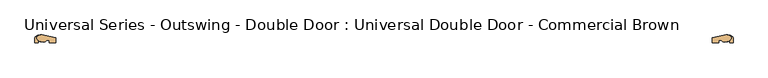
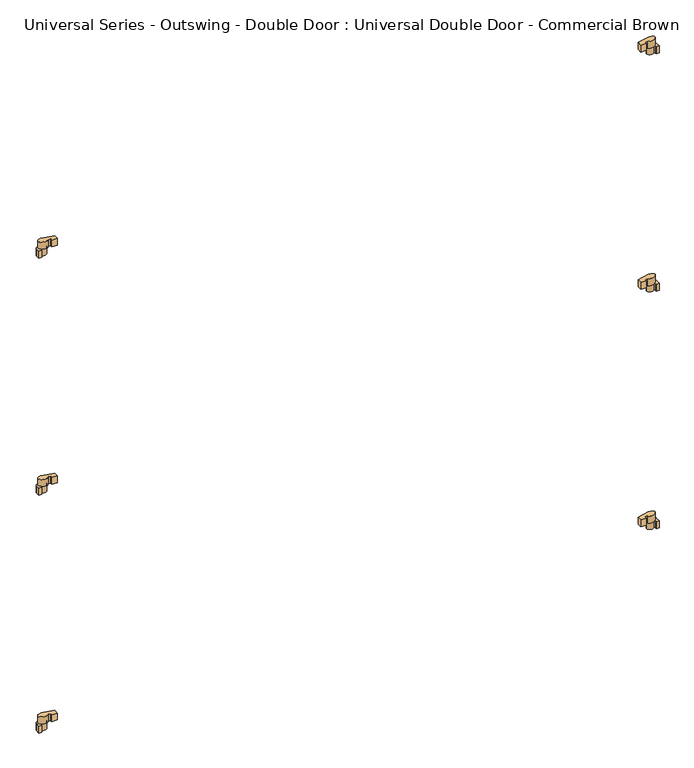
"""IFC4 building model written with IfcOpenShell, lengths in millimetres: door geometry, Universal Series - Outswing - Double Door : Universal Double Door - Commercial Brown."""

from ifc_helpers import new_model, si_unit, point, frame, origin, place, context, project, spatial, ellipse_curve, trimmed, source, transform, mapped, element, save
from ifc_brep_helpers import plane_surface, extruded_surface, advanced_brep


def universal_series_outswing_double_door_universal_double_door_7408c8ae(model_context):
    return source(origin(), model_context, "Body", "AdvancedBrep", [
        advanced_brep(
        [(1066.8, 73.81875, 1854.2), (1066.8, 57.94375, 1854.2), (1056.6410269, 57.94375, 1854.2), (1056.6410269, 62.5751014, 1854.2), (1054.3021491, 66.7596681, 1854.2), (1031.7277787, 73.81875, 1854.2), (1066.8, 73.81875, 1879.6), (1031.7277787, 73.81875, 1879.6), (1054.3021491, 66.7596681, 1879.6), (1056.6410269, 62.5751014, 1879.6), (1056.6410269, 57.94375, 1879.6), (1066.8, 57.94375, 1879.6)],
        [
            (0, 1),
            (1, 2),
            (2, 3),
            (3, 4),
            (4, 5, ellipse_curve(frame((1044.4277787, 73.81875, 1854.2), z_axis=(0.0, 0.0, -1.0), x_axis=(-1.0, 0.0, 0.0)), 12.7, 11.2250039)),
            (5, 0, ellipse_curve(frame((1049.2638894, 73.81875, 1854.2), z_axis=(0.0, 0.0, -1.0), x_axis=(1.0, 0.0, 0.0)), 17.5361106, 8.0833806)),
            (6, 7, ellipse_curve(frame((1049.2638894, 73.81875, 1879.6), z_axis=(0.0, 0.0, 1.0), x_axis=(1.0, 0.0, 0.0)), 17.5361106, 8.0833806)),
            (7, 8, ellipse_curve(frame((1044.4277787, 73.81875, 1879.6), z_axis=(0.0, 0.0, 1.0), x_axis=(-1.0, 0.0, 0.0)), 12.7, 11.2250039)),
            (8, 9),
            (9, 10),
            (10, 11),
            (11, 6),
            (6, 0),
            (5, 7),
            (4, 8),
            (3, 9),
            (2, 10),
            (1, 11),
        ],
        [
            plane_surface(frame((1066.8, 73.81875, 1854.2), z_axis=(0.0, 0.0, -1.0), x_axis=(0.0, -1.0, 0.0))),
            plane_surface(frame((1066.8, 73.81875, 1879.6), z_axis=(0.0, 0.0, 1.0), x_axis=(0.0, 1.0, 0.0))),
            extruded_surface(trimmed(ellipse_curve(frame((1049.2638894, 73.81875, 1828.8), z_axis=(0.0, 0.0, 1.0), x_axis=(1.0, 0.0, 0.0)), 17.5361106, 8.0833806), [point((1066.8, 73.81875, 1828.8))], [point((1031.7277787, 73.81875, 1828.8))], True, "CARTESIAN"), (0.0, 0.0, 25.40000000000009), 25.40000000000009),
            extruded_surface(trimmed(ellipse_curve(frame((1044.4277787, 73.81875, 1828.8), z_axis=(0.0, 0.0, 1.0), x_axis=(-1.0, 0.0, 0.0)), 12.7, 11.2250039), [point((1031.7277787, 73.81875, 1828.8))], [point((1054.3021491, 66.7596681, 1828.8))], True, "CARTESIAN"), (0.0, 0.0, 25.40000000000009), 25.40000000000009),
            plane_surface(frame((1054.3021491, 66.7596681, 1879.6), z_axis=(-0.8729040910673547, -0.4878918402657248, 0.0), x_axis=(0.0, 0.0, -1.0))),
            plane_surface(frame((1056.6410269, 62.5751014, 1879.6), z_axis=(-1.0, 0.0, 0.0), x_axis=(0.0, 0.0, -1.0))),
            plane_surface(frame((1056.6410269, 57.94375, 1879.6), z_axis=(0.0, -1.0, 0.0), x_axis=(0.0, 0.0, -1.0))),
            plane_surface(frame((1066.8, 57.94375, 1879.6), z_axis=(1.0, 0.0, 0.0), x_axis=(0.0, 0.0, -1.0))),
        ],
        [
            (0, [[1, 2, 3, 4, 5, 6]]),
            (1, [[7, 8, 9, 10, 11, 12]]),
            (2, [[-7, 13, -6, 14]]),
            (3, [[-8, -14, -5, 15]]),
            (4, [[-9, -15, -4, 16]]),
            (5, [[-10, -16, -3, 17]]),
            (6, [[-11, -17, -2, 18]]),
            (7, [[-12, -18, -1, -13]]),
        ],
    ),
        advanced_brep(
        [(1066.8, 73.81875, 991.39375), (1066.8, 57.94375, 991.39375), (1056.6410269, 57.94375, 991.39375), (1056.6410269, 62.5751014, 991.39375), (1054.3021491, 66.7596681, 991.39375), (1031.7277787, 73.81875, 991.39375), (1066.8, 73.81875, 1016.79375), (1031.7277787, 73.81875, 1016.79375), (1054.3021491, 66.7596681, 1016.79375), (1056.6410269, 62.5751014, 1016.79375), (1056.6410269, 57.94375, 1016.79375), (1066.8, 57.94375, 1016.79375)],
        [
            (0, 1),
            (1, 2),
            (2, 3),
            (3, 4),
            (4, 5, ellipse_curve(frame((1044.4277787, 73.81875, 991.39375), z_axis=(0.0, 0.0, -1.0), x_axis=(-1.0, 0.0, 0.0)), 12.7, 11.2250039)),
            (5, 0, ellipse_curve(frame((1049.2638894, 73.81875, 991.39375), z_axis=(0.0, 0.0, -1.0), x_axis=(1.0, 0.0, 0.0)), 17.5361106, 8.0833806)),
            (6, 7, ellipse_curve(frame((1049.2638894, 73.81875, 1016.79375), z_axis=(0.0, 0.0, 1.0), x_axis=(1.0, 0.0, 0.0)), 17.5361106, 8.0833806)),
            (7, 8, ellipse_curve(frame((1044.4277787, 73.81875, 1016.79375), z_axis=(0.0, 0.0, 1.0), x_axis=(-1.0, 0.0, 0.0)), 12.7, 11.2250039)),
            (8, 9),
            (9, 10),
            (10, 11),
            (11, 6),
            (6, 0),
            (5, 7),
            (4, 8),
            (3, 9),
            (2, 10),
            (1, 11),
        ],
        [
            plane_surface(frame((1066.8, 73.81875, 991.39375), z_axis=(0.0, 0.0, -1.0), x_axis=(0.0, -1.0, 0.0))),
            plane_surface(frame((1066.8, 73.81875, 1016.79375), z_axis=(0.0, 0.0, 1.0), x_axis=(0.0, 1.0, 0.0))),
            extruded_surface(trimmed(ellipse_curve(frame((1049.2638894, 73.81875, 965.99375), z_axis=(0.0, 0.0, 1.0), x_axis=(1.0, 0.0, 0.0)), 17.5361106, 8.0833806), [point((1066.8, 73.81875, 965.99375))], [point((1031.7277787, 73.81875, 965.99375))], True, "CARTESIAN"), (0.0, 0.0, 25.399999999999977), 25.399999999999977),
            extruded_surface(trimmed(ellipse_curve(frame((1044.4277787, 73.81875, 965.99375), z_axis=(0.0, 0.0, 1.0), x_axis=(-1.0, 0.0, 0.0)), 12.7, 11.2250039), [point((1031.7277787, 73.81875, 965.99375))], [point((1054.3021491, 66.7596681, 965.99375))], True, "CARTESIAN"), (0.0, 0.0, 25.399999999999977), 25.399999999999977),
            plane_surface(frame((1054.3021491, 66.7596681, 1016.79375), z_axis=(-0.8729040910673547, -0.4878918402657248, 0.0), x_axis=(0.0, 0.0, -1.0))),
            plane_surface(frame((1056.6410269, 62.5751014, 1016.79375), z_axis=(-1.0, 0.0, 0.0), x_axis=(0.0, 0.0, -1.0))),
            plane_surface(frame((1056.6410269, 57.94375, 1016.79375), z_axis=(0.0, -1.0, 0.0), x_axis=(0.0, 0.0, -1.0))),
            plane_surface(frame((1066.8, 57.94375, 1016.79375), z_axis=(1.0, 0.0, 0.0), x_axis=(0.0, 0.0, -1.0))),
        ],
        [
            (0, [[1, 2, 3, 4, 5, 6]]),
            (1, [[7, 8, 9, 10, 11, 12]]),
            (2, [[-7, 13, -6, 14]]),
            (3, [[-8, -14, -5, 15]]),
            (4, [[-9, -15, -4, 16]]),
            (5, [[-10, -16, -3, 17]]),
            (6, [[-11, -17, -2, 18]]),
            (7, [[-12, -18, -1, -13]]),
        ],
    ),
        advanced_brep(
        [(1066.8, 73.81875, 127.0), (1066.8, 57.94375, 127.0), (1056.6410269, 57.94375, 127.0), (1056.6410269, 62.5751014, 127.0), (1054.3021491, 66.7596681, 127.0), (1031.7277787, 73.81875, 127.0), (1066.8, 73.81875, 152.4), (1031.7277787, 73.81875, 152.4), (1054.3021491, 66.7596681, 152.4), (1056.6410269, 62.5751014, 152.4), (1056.6410269, 57.94375, 152.4), (1066.8, 57.94375, 152.4)],
        [
            (0, 1),
            (1, 2),
            (2, 3),
            (3, 4),
            (4, 5, ellipse_curve(frame((1044.4277787, 73.81875, 127.0), z_axis=(0.0, 0.0, -1.0), x_axis=(-1.0, 0.0, 0.0)), 12.7, 11.2250039)),
            (5, 0, ellipse_curve(frame((1049.2638894, 73.81875, 127.0), z_axis=(0.0, 0.0, -1.0), x_axis=(1.0, 0.0, 0.0)), 17.5361106, 8.0833806)),
            (6, 7, ellipse_curve(frame((1049.2638894, 73.81875, 152.4), z_axis=(0.0, 0.0, 1.0), x_axis=(1.0, 0.0, 0.0)), 17.5361106, 8.0833806)),
            (7, 8, ellipse_curve(frame((1044.4277787, 73.81875, 152.4), z_axis=(0.0, 0.0, 1.0), x_axis=(-1.0, 0.0, 0.0)), 12.7, 11.2250039)),
            (8, 9),
            (9, 10),
            (10, 11),
            (11, 6),
            (6, 0),
            (5, 7),
            (4, 8),
            (3, 9),
            (2, 10),
            (1, 11),
        ],
        [
            plane_surface(frame((1066.8, 73.81875, 127.0), z_axis=(0.0, 0.0, -1.0), x_axis=(0.0, -1.0, 0.0))),
            plane_surface(frame((1066.8, 73.81875, 152.4), z_axis=(0.0, 0.0, 1.0), x_axis=(0.0, 1.0, 0.0))),
            extruded_surface(trimmed(ellipse_curve(frame((1049.2638894, 73.81875, 101.6), z_axis=(0.0, 0.0, 1.0), x_axis=(1.0, 0.0, 0.0)), 17.5361106, 8.0833806), [point((1066.8, 73.81875, 101.6))], [point((1031.7277787, 73.81875, 101.6))], True, "CARTESIAN"), (0.0, 0.0, 25.400000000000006), 25.400000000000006),
            extruded_surface(trimmed(ellipse_curve(frame((1044.4277787, 73.81875, 101.6), z_axis=(0.0, 0.0, 1.0), x_axis=(-1.0, 0.0, 0.0)), 12.7, 11.2250039), [point((1031.7277787, 73.81875, 101.6))], [point((1054.3021491, 66.7596681, 101.6))], True, "CARTESIAN"), (0.0, 0.0, 25.400000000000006), 25.400000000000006),
            plane_surface(frame((1054.3021491, 66.7596681, 152.4), z_axis=(-0.8729040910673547, -0.4878918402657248, 0.0), x_axis=(0.0, 0.0, -1.0))),
            plane_surface(frame((1056.6410269, 62.5751014, 152.4), z_axis=(-1.0, 0.0, 0.0), x_axis=(0.0, 0.0, -1.0))),
            plane_surface(frame((1056.6410269, 57.94375, 152.4), z_axis=(0.0, -1.0, 0.0), x_axis=(0.0, 0.0, -1.0))),
            plane_surface(frame((1066.8, 57.94375, 152.4), z_axis=(1.0, 0.0, 0.0), x_axis=(0.0, 0.0, -1.0))),
        ],
        [
            (0, [[1, 2, 3, 4, 5, 6]]),
            (1, [[7, 8, 9, 10, 11, 12]]),
            (2, [[-7, 13, -6, 14]]),
            (3, [[-8, -14, -5, 15]]),
            (4, [[-9, -15, -4, 16]]),
            (5, [[-10, -16, -3, 17]]),
            (6, [[-11, -17, -2, 18]]),
            (7, [[-12, -18, -1, -13]]),
        ],
    ),
        advanced_brep(
        [(-1066.8, 73.81875, 1854.2), (-1031.7277787, 73.81875, 1854.2), (-1054.3021491, 66.7596681, 1854.2), (-1056.6410269, 62.5751014, 1854.2), (-1056.6410269, 57.94375, 1854.2), (-1066.8, 57.94375, 1854.2), (-1066.8, 73.81875, 1879.6), (-1066.8, 57.94375, 1879.6), (-1056.6410269, 57.94375, 1879.6), (-1056.6410269, 62.5751014, 1879.6), (-1054.3021491, 66.7596681, 1879.6), (-1031.7277787, 73.81875, 1879.6)],
        [
            (0, 1, ellipse_curve(frame((-1049.2638894, 73.81875, 1854.2), z_axis=(0.0, 0.0, -1.0), x_axis=(-1.0, 0.0, 0.0)), 17.5361106, 8.0833806)),
            (1, 2, ellipse_curve(frame((-1044.4277787, 73.81875, 1854.2), z_axis=(0.0, 0.0, -1.0), x_axis=(1.0, 0.0, 0.0)), 12.7, 11.2250039)),
            (2, 3),
            (3, 4),
            (4, 5),
            (5, 0),
            (6, 7),
            (7, 8),
            (8, 9),
            (9, 10),
            (10, 11, ellipse_curve(frame((-1044.4277787, 73.81875, 1879.6), z_axis=(0.0, 0.0, 1.0), x_axis=(1.0, 0.0, 0.0)), 12.7, 11.2250039)),
            (11, 6, ellipse_curve(frame((-1049.2638894, 73.81875, 1879.6), z_axis=(0.0, 0.0, 1.0), x_axis=(-1.0, 0.0, 0.0)), 17.5361106, 8.0833806)),
            (11, 1),
            (0, 6),
            (10, 2),
            (9, 3),
            (8, 4),
            (7, 5),
        ],
        [
            plane_surface(frame((-1066.8, 57.94375, 1854.2), z_axis=(0.0, 0.0, -1.0), x_axis=(0.0, 1.0, 0.0))),
            plane_surface(frame((-1066.8, 57.94375, 1879.6), z_axis=(0.0, 0.0, 1.0), x_axis=(0.0, -1.0, 0.0))),
            extruded_surface(trimmed(ellipse_curve(frame((-1049.2638894, 73.81875, 1828.8), z_axis=(0.0, 0.0, 1.0), x_axis=(-1.0, 0.0, 0.0)), 17.5361106, 8.0833806), [point((-1031.7277787, 73.81875, 1828.8))], [point((-1066.8, 73.81875, 1828.8))], True, "CARTESIAN"), (0.0, 0.0, 25.40000000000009), 25.40000000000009),
            extruded_surface(trimmed(ellipse_curve(frame((-1044.4277787, 73.81875, 1828.8), z_axis=(0.0, 0.0, 1.0), x_axis=(1.0, 0.0, 0.0)), 12.7, 11.2250039), [point((-1054.3021491, 66.7596681, 1828.8))], [point((-1031.7277787, 73.81875, 1828.8))], True, "CARTESIAN"), (0.0, 0.0, 25.40000000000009), 25.40000000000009),
            plane_surface(frame((-1056.6410269, 62.5751014, 1879.6), z_axis=(0.8729040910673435, -0.4878918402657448, 0.0), x_axis=(0.0, 0.0, -1.0))),
            plane_surface(frame((-1056.6410269, 57.94375, 1879.6), z_axis=(1.0, 0.0, 0.0), x_axis=(0.0, 0.0, -1.0))),
            plane_surface(frame((-1066.8, 57.94375, 1879.6), z_axis=(0.0, -1.0, 0.0), x_axis=(0.0, 0.0, -1.0))),
            plane_surface(frame((-1066.8, 73.81875, 1879.6), z_axis=(-1.0, 0.0, 0.0), x_axis=(0.0, 0.0, -1.0))),
        ],
        [
            (0, [[1, 2, 3, 4, 5, 6]]),
            (1, [[7, 8, 9, 10, 11, 12]]),
            (2, [[-12, 13, -1, 14]]),
            (3, [[-11, 15, -2, -13]]),
            (4, [[-10, 16, -3, -15]]),
            (5, [[-9, 17, -4, -16]]),
            (6, [[-8, 18, -5, -17]]),
            (7, [[-7, -14, -6, -18]]),
        ],
    ),
        advanced_brep(
        [(-1066.8, 73.81875, 991.39375), (-1031.7277787, 73.81875, 991.39375), (-1054.3021491, 66.7596681, 991.39375), (-1056.6410269, 62.5751014, 991.39375), (-1056.6410269, 57.94375, 991.39375), (-1066.8, 57.94375, 991.39375), (-1066.8, 73.81875, 1016.79375), (-1066.8, 57.94375, 1016.79375), (-1056.6410269, 57.94375, 1016.79375), (-1056.6410269, 62.5751014, 1016.79375), (-1054.3021491, 66.7596681, 1016.79375), (-1031.7277787, 73.81875, 1016.79375)],
        [
            (0, 1, ellipse_curve(frame((-1049.2638894, 73.81875, 991.39375), z_axis=(0.0, 0.0, -1.0), x_axis=(-1.0, 0.0, 0.0)), 17.5361106, 8.0833806)),
            (1, 2, ellipse_curve(frame((-1044.4277787, 73.81875, 991.39375), z_axis=(0.0, 0.0, -1.0), x_axis=(1.0, 0.0, 0.0)), 12.7, 11.2250039)),
            (2, 3),
            (3, 4),
            (4, 5),
            (5, 0),
            (6, 7),
            (7, 8),
            (8, 9),
            (9, 10),
            (10, 11, ellipse_curve(frame((-1044.4277787, 73.81875, 1016.79375), z_axis=(0.0, 0.0, 1.0), x_axis=(1.0, 0.0, 0.0)), 12.7, 11.2250039)),
            (11, 6, ellipse_curve(frame((-1049.2638894, 73.81875, 1016.79375), z_axis=(0.0, 0.0, 1.0), x_axis=(-1.0, 0.0, 0.0)), 17.5361106, 8.0833806)),
            (11, 1),
            (0, 6),
            (10, 2),
            (9, 3),
            (8, 4),
            (7, 5),
        ],
        [
            plane_surface(frame((-1066.8, 57.94375, 991.39375), z_axis=(0.0, 0.0, -1.0), x_axis=(0.0, 1.0, 0.0))),
            plane_surface(frame((-1066.8, 57.94375, 1016.79375), z_axis=(0.0, 0.0, 1.0), x_axis=(0.0, -1.0, 0.0))),
            extruded_surface(trimmed(ellipse_curve(frame((-1049.2638894, 73.81875, 965.99375), z_axis=(0.0, 0.0, 1.0), x_axis=(-1.0, 0.0, 0.0)), 17.5361106, 8.0833806), [point((-1031.7277787, 73.81875, 965.99375))], [point((-1066.8, 73.81875, 965.99375))], True, "CARTESIAN"), (0.0, 0.0, 25.399999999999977), 25.399999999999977),
            extruded_surface(trimmed(ellipse_curve(frame((-1044.4277787, 73.81875, 965.99375), z_axis=(0.0, 0.0, 1.0), x_axis=(1.0, 0.0, 0.0)), 12.7, 11.2250039), [point((-1054.3021491, 66.7596681, 965.99375))], [point((-1031.7277787, 73.81875, 965.99375))], True, "CARTESIAN"), (0.0, 0.0, 25.399999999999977), 25.399999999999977),
            plane_surface(frame((-1056.6410269, 62.5751014, 1016.79375), z_axis=(0.8729040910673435, -0.4878918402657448, 0.0), x_axis=(0.0, 0.0, -1.0))),
            plane_surface(frame((-1056.6410269, 57.94375, 1016.79375), z_axis=(1.0, 0.0, 0.0), x_axis=(0.0, 0.0, -1.0))),
            plane_surface(frame((-1066.8, 57.94375, 1016.79375), z_axis=(0.0, -1.0, 0.0), x_axis=(0.0, 0.0, -1.0))),
            plane_surface(frame((-1066.8, 73.81875, 1016.79375), z_axis=(-1.0, 0.0, 0.0), x_axis=(0.0, 0.0, -1.0))),
        ],
        [
            (0, [[1, 2, 3, 4, 5, 6]]),
            (1, [[7, 8, 9, 10, 11, 12]]),
            (2, [[-12, 13, -1, 14]]),
            (3, [[-11, 15, -2, -13]]),
            (4, [[-10, 16, -3, -15]]),
            (5, [[-9, 17, -4, -16]]),
            (6, [[-8, 18, -5, -17]]),
            (7, [[-7, -14, -6, -18]]),
        ],
    ),
        advanced_brep(
        [(-1061.8080824, 73.9727208, 1905.0), (-1030.8715318, 65.5953469, 1905.0), (-1022.35, 64.4477208, 1905.0), (-1022.35, 57.94375, 1905.0), (-1003.3, 57.94375, 1905.0), (-1003.3, 73.4034338, 1905.0), (-1044.2719717, 82.0561014, 1905.0), (-1061.8080824, 73.9727208, 1879.6), (-1044.2719717, 82.0561014, 1879.6), (-1003.3, 73.4034338, 1879.6), (-1003.3, 57.94375, 1879.6), (-1022.35, 57.94375, 1879.6), (-1022.35, 64.4477208, 1879.6), (-1030.8715318, 65.5953469, 1879.6)],
        [
            (0, 1, ellipse_curve(frame((-1046.3398071, 69.7840339, 1905.0), z_axis=(0.0, 0.0, 0.9999999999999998), x_axis=(-0.9652364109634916, 0.26137840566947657, 0.0)), 16.0253748, 8.4436972)),
            (1, 2),
            (2, 3),
            (3, 4),
            (4, 5),
            (5, 6),
            (6, 0, ellipse_curve(frame((-1044.2719717, 73.9727208, 1905.0), z_axis=(0.0, 0.0, 1.0), x_axis=(1.0, 0.0, 0.0)), 17.5361106, 8.0833806)),
            (7, 8, ellipse_curve(frame((-1044.2719717, 73.9727208, 1879.6), z_axis=(0.0, 0.0, -1.0), x_axis=(1.0, 0.0, 0.0)), 17.5361106, 8.0833806)),
            (8, 9),
            (9, 10),
            (10, 11),
            (11, 12),
            (12, 13),
            (13, 7, ellipse_curve(frame((-1046.3398071, 69.7840339, 1879.6), z_axis=(0.0, 0.0, -0.9999999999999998), x_axis=(-0.9652364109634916, 0.26137840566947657, 0.0)), 16.0253748, 8.4436972)),
            (6, 8),
            (7, 0),
            (5, 9),
            (4, 10),
            (3, 11),
            (2, 12),
            (1, 13),
        ],
        [
            plane_surface(frame((-1061.8080824, 73.9727208, 1905.0), z_axis=(0.0, 0.0, 1.0), x_axis=(-0.2613784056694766, -0.9652364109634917, 0.0))),
            plane_surface(frame((-1061.8080824, 73.9727208, 1879.6), z_axis=(0.0, 0.0, -1.0), x_axis=(0.2613784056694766, 0.9652364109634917, 0.0))),
            extruded_surface(trimmed(ellipse_curve(frame((-1044.2719717, 73.9727208, 1854.2), z_axis=(0.0, 0.0, 1.0), x_axis=(1.0, 0.0, 0.0)), 17.5361106, 8.0833806), [point((-1044.2719717, 82.0561014, 1854.2))], [point((-1061.8080824, 73.9727208, 1854.2))], True, "CARTESIAN"), (0.0, 0.0, 25.399999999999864), 25.399999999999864),
            plane_surface(frame((-1003.3, 73.4034338, 1905.0), z_axis=(0.20662759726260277, 0.9784196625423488, 0.0), x_axis=(0.0, 0.0, -1.0))),
            plane_surface(frame((-1003.3, 57.94375, 1905.0), z_axis=(1.0, 0.0, 0.0), x_axis=(0.0, 0.0, -1.0))),
            plane_surface(frame((-1022.35, 57.94375, 1905.0), z_axis=(0.0, -1.0, 0.0), x_axis=(0.0, 0.0, -1.0))),
            plane_surface(frame((-1022.35, 64.4477208, 1905.0), z_axis=(-1.0, 0.0, 0.0), x_axis=(0.0, 0.0, -1.0))),
            plane_surface(frame((-1030.8715318, 65.5953469, 1905.0), z_axis=(-0.13346877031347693, -0.9910530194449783, 0.0), x_axis=(0.0, 0.0, -1.0))),
            extruded_surface(trimmed(ellipse_curve(frame((-1046.3398071, 69.7840339, 1854.2), z_axis=(0.0, 0.0, 0.9999999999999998), x_axis=(-0.9652364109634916, 0.26137840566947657, 0.0)), 16.0253748, 8.4436972), [point((-1061.8080824, 73.9727208, 1854.2))], [point((-1030.8715318, 65.5953469, 1854.2))], True, "CARTESIAN"), (0.0, 0.0, 25.399999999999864), 25.399999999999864),
        ],
        [
            (0, [[1, 2, 3, 4, 5, 6, 7]]),
            (1, [[8, 9, 10, 11, 12, 13, 14]]),
            (2, [[-7, 15, -8, 16]]),
            (3, [[-6, 17, -9, -15]]),
            (4, [[-5, 18, -10, -17]]),
            (5, [[-4, 19, -11, -18]]),
            (6, [[-3, 20, -12, -19]]),
            (7, [[-2, 21, -13, -20]]),
            (8, [[-1, -16, -14, -21]]),
        ],
    ),
        advanced_brep(
        [(-1061.8080824, 73.9727208, 1041.4), (-1030.8715318, 65.5953469, 1041.4), (-1022.35, 64.4477208, 1041.4), (-1022.35, 57.94375, 1041.4), (-1003.3, 57.94375, 1041.4), (-1003.3, 73.4034338, 1041.4), (-1044.2719717, 82.0561014, 1041.4), (-1061.8080824, 73.9727208, 1016.0), (-1044.2719717, 82.0561014, 1016.0), (-1003.3, 73.4034338, 1016.0), (-1003.3, 57.94375, 1016.0), (-1022.35, 57.94375, 1016.0), (-1022.35, 64.4477208, 1016.0), (-1030.8715318, 65.5953469, 1016.0)],
        [
            (0, 1, ellipse_curve(frame((-1046.3398071, 69.7840339, 1041.4), z_axis=(0.0, 0.0, 0.9999999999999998), x_axis=(-0.9652364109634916, 0.26137840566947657, 0.0)), 16.0253748, 8.4436972)),
            (1, 2),
            (2, 3),
            (3, 4),
            (4, 5),
            (5, 6),
            (6, 0, ellipse_curve(frame((-1044.2719717, 73.9727208, 1041.4), z_axis=(0.0, 0.0, 1.0), x_axis=(1.0, 0.0, 0.0)), 17.5361106, 8.0833806)),
            (7, 8, ellipse_curve(frame((-1044.2719717, 73.9727208, 1016.0), z_axis=(0.0, 0.0, -1.0), x_axis=(1.0, 0.0, 0.0)), 17.5361106, 8.0833806)),
            (8, 9),
            (9, 10),
            (10, 11),
            (11, 12),
            (12, 13),
            (13, 7, ellipse_curve(frame((-1046.3398071, 69.7840339, 1016.0), z_axis=(0.0, 0.0, -0.9999999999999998), x_axis=(-0.9652364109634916, 0.26137840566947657, 0.0)), 16.0253748, 8.4436972)),
            (6, 8),
            (7, 0),
            (5, 9),
            (4, 10),
            (3, 11),
            (2, 12),
            (1, 13),
        ],
        [
            plane_surface(frame((-1061.8080824, 73.9727208, 1041.4), z_axis=(0.0, 0.0, 1.0), x_axis=(-0.2613784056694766, -0.9652364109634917, 0.0))),
            plane_surface(frame((-1061.8080824, 73.9727208, 1016.0), z_axis=(0.0, 0.0, -1.0), x_axis=(0.2613784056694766, 0.9652364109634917, 0.0))),
            extruded_surface(trimmed(ellipse_curve(frame((-1044.2719717, 73.9727208, 990.6), z_axis=(0.0, 0.0, 1.0), x_axis=(1.0, 0.0, 0.0)), 17.5361106, 8.0833806), [point((-1044.2719717, 82.0561014, 990.6))], [point((-1061.8080824, 73.9727208, 990.6))], True, "CARTESIAN"), (0.0, 0.0, 25.399999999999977), 25.399999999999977),
            plane_surface(frame((-1003.3, 73.4034338, 1041.4), z_axis=(0.2066275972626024, 0.9784196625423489, 0.0), x_axis=(0.0, 0.0, -1.0))),
            plane_surface(frame((-1003.3, 57.94375, 1041.4), z_axis=(1.0, 0.0, 0.0), x_axis=(0.0, 0.0, -1.0))),
            plane_surface(frame((-1022.35, 57.94375, 1041.4), z_axis=(0.0, -1.0, 0.0), x_axis=(0.0, 0.0, -1.0))),
            plane_surface(frame((-1022.35, 64.4477208, 1041.4), z_axis=(-1.0, 0.0, 0.0), x_axis=(0.0, 0.0, -1.0))),
            plane_surface(frame((-1030.8715318, 65.5953469, 1041.4), z_axis=(-0.1334687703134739, -0.9910530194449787, 0.0), x_axis=(0.0, 0.0, -1.0))),
            extruded_surface(trimmed(ellipse_curve(frame((-1046.3398071, 69.7840339, 990.6), z_axis=(0.0, 0.0, 0.9999999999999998), x_axis=(-0.9652364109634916, 0.26137840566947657, 0.0)), 16.0253748, 8.4436972), [point((-1061.8080824, 73.9727208, 990.6))], [point((-1030.8715318, 65.5953469, 990.6))], True, "CARTESIAN"), (0.0, 0.0, 25.399999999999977), 25.399999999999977),
        ],
        [
            (0, [[1, 2, 3, 4, 5, 6, 7]]),
            (1, [[8, 9, 10, 11, 12, 13, 14]]),
            (2, [[-7, 15, -8, 16]]),
            (3, [[-6, 17, -9, -15]]),
            (4, [[-5, 18, -10, -17]]),
            (5, [[-4, 19, -11, -18]]),
            (6, [[-3, 20, -12, -19]]),
            (7, [[-2, 21, -13, -20]]),
            (8, [[-1, -16, -14, -21]]),
        ],
    ),
        advanced_brep(
        [(-1061.8080824, 73.9727208, 152.4), (-1044.2719717, 82.0561014, 152.4), (-1003.3, 73.4034338, 152.4), (-1003.3, 57.94375, 152.4), (-1022.35, 57.94375, 152.4), (-1022.35, 64.4477208, 152.4), (-1030.8715318, 65.5953469, 152.4), (-1061.8080824, 73.9727208, 177.8), (-1030.8715318, 65.5953469, 177.8), (-1022.35, 64.4477208, 177.8), (-1022.35, 57.94375, 177.8), (-1003.3, 57.94375, 177.8), (-1003.3, 73.4034338, 177.8), (-1044.2719717, 82.0561014, 177.8)],
        [
            (0, 1, ellipse_curve(frame((-1044.2719717, 73.9727208, 152.4), z_axis=(0.0, 0.0, -1.0), x_axis=(1.0, 0.0, 0.0)), 17.5361106, 8.0833806)),
            (1, 2),
            (2, 3),
            (3, 4),
            (4, 5),
            (5, 6),
            (6, 0, ellipse_curve(frame((-1046.3398071, 69.7840339, 152.4), z_axis=(0.0, 0.0, -0.9999999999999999), x_axis=(-0.9652364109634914, 0.261378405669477, 0.0)), 16.0253748, 8.4436972)),
            (7, 8, ellipse_curve(frame((-1046.3398071, 69.7840339, 177.8), z_axis=(0.0, 0.0, 0.9999999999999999), x_axis=(-0.9652364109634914, 0.261378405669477, 0.0)), 16.0253748, 8.4436972)),
            (8, 9),
            (9, 10),
            (10, 11),
            (11, 12),
            (12, 13),
            (13, 7, ellipse_curve(frame((-1044.2719717, 73.9727208, 177.8), z_axis=(0.0, 0.0, 1.0), x_axis=(1.0, 0.0, 0.0)), 17.5361106, 8.0833806)),
            (13, 1),
            (0, 7),
            (12, 2),
            (11, 3),
            (10, 4),
            (9, 5),
            (8, 6),
        ],
        [
            plane_surface(frame((-1061.8080824, 73.9727208, 152.4), z_axis=(0.0, 0.0, -1.0), x_axis=(0.26137840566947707, 0.9652364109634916, 0.0))),
            plane_surface(frame((-1061.8080824, 73.9727208, 177.8), z_axis=(0.0, 0.0, 1.0), x_axis=(-0.26137840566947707, -0.9652364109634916, 0.0))),
            extruded_surface(trimmed(ellipse_curve(frame((-1044.2719717, 73.9727208, 127.0), z_axis=(0.0, 0.0, 1.0), x_axis=(1.0, 0.0, 0.0)), 17.5361106, 8.0833806), [point((-1044.2719717, 82.0561014, 127.0))], [point((-1061.8080824, 73.9727208, 127.0))], True, "CARTESIAN"), (0.0, 0.0, 25.400000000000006), 25.400000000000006),
            plane_surface(frame((-1003.3, 73.4034338, 177.8), z_axis=(0.206627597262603, 0.9784196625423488, 0.0), x_axis=(0.0, 0.0, -1.0))),
            plane_surface(frame((-1003.3, 57.94375, 177.8), z_axis=(1.0, 0.0, 0.0), x_axis=(0.0, 0.0, -1.0))),
            plane_surface(frame((-1022.35, 57.94375, 177.8), z_axis=(0.0, -1.0, 0.0), x_axis=(0.0, 0.0, -1.0))),
            plane_surface(frame((-1022.35, 64.4477208, 177.8), z_axis=(-1.0, 0.0, 0.0), x_axis=(0.0, 0.0, -1.0))),
            plane_surface(frame((-1030.8715318, 65.5953469, 177.8), z_axis=(-0.1334687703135, -0.9910530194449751, 0.0), x_axis=(0.0, 0.0, -1.0))),
            extruded_surface(trimmed(ellipse_curve(frame((-1046.3398071, 69.7840339, 127.0), z_axis=(0.0, 0.0, 0.9999999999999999), x_axis=(-0.9652364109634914, 0.261378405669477, 0.0)), 16.0253748, 8.4436972), [point((-1061.8080824, 73.9727208, 127.0))], [point((-1030.8715318, 65.5953469, 127.0))], True, "CARTESIAN"), (0.0, 0.0, 25.400000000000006), 25.400000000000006),
        ],
        [
            (0, [[1, 2, 3, 4, 5, 6, 7]]),
            (1, [[8, 9, 10, 11, 12, 13, 14]]),
            (2, [[-14, 15, -1, 16]]),
            (3, [[-13, 17, -2, -15]]),
            (4, [[-12, 18, -3, -17]]),
            (5, [[-11, 19, -4, -18]]),
            (6, [[-10, 20, -5, -19]]),
            (7, [[-9, 21, -6, -20]]),
            (8, [[-8, -16, -7, -21]]),
        ],
    ),
        advanced_brep(
        [(-1066.8, 73.81875, 127.0), (-1031.7277787, 73.81875, 127.0), (-1054.3021491, 66.7596681, 127.0), (-1056.6410269, 62.5751014, 127.0), (-1056.6410269, 57.94375, 127.0), (-1066.8, 57.94375, 127.0), (-1066.8, 73.81875, 152.4), (-1066.8, 57.94375, 152.4), (-1056.6410269, 57.94375, 152.4), (-1056.6410269, 62.5751014, 152.4), (-1054.3021491, 66.7596681, 152.4), (-1031.7277787, 73.81875, 152.4)],
        [
            (0, 1, ellipse_curve(frame((-1049.2638894, 73.81875, 127.0), z_axis=(0.0, 0.0, -1.0), x_axis=(-1.0, 0.0, 0.0)), 17.5361106, 8.0833806)),
            (1, 2, ellipse_curve(frame((-1044.4277787, 73.81875, 127.0), z_axis=(0.0, 0.0, -1.0), x_axis=(1.0, 0.0, 0.0)), 12.7, 11.2250039)),
            (2, 3),
            (3, 4),
            (4, 5),
            (5, 0),
            (6, 7),
            (7, 8),
            (8, 9),
            (9, 10),
            (10, 11, ellipse_curve(frame((-1044.4277787, 73.81875, 152.4), z_axis=(0.0, 0.0, 1.0), x_axis=(1.0, 0.0, 0.0)), 12.7, 11.2250039)),
            (11, 6, ellipse_curve(frame((-1049.2638894, 73.81875, 152.4), z_axis=(0.0, 0.0, 1.0), x_axis=(-1.0, 0.0, 0.0)), 17.5361106, 8.0833806)),
            (11, 1),
            (0, 6),
            (10, 2),
            (9, 3),
            (8, 4),
            (7, 5),
        ],
        [
            plane_surface(frame((-1066.8, 57.94375, 127.0), z_axis=(0.0, 0.0, -1.0), x_axis=(0.0, 1.0, 0.0))),
            plane_surface(frame((-1066.8, 57.94375, 152.4), z_axis=(0.0, 0.0, 1.0), x_axis=(0.0, -1.0, 0.0))),
            extruded_surface(trimmed(ellipse_curve(frame((-1049.2638894, 73.81875, 101.6), z_axis=(0.0, 0.0, 1.0), x_axis=(-1.0, 0.0, 0.0)), 17.5361106, 8.0833806), [point((-1031.7277787, 73.81875, 101.6))], [point((-1066.8, 73.81875, 101.6))], True, "CARTESIAN"), (0.0, 0.0, 25.400000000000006), 25.400000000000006),
            extruded_surface(trimmed(ellipse_curve(frame((-1044.4277787, 73.81875, 101.6), z_axis=(0.0, 0.0, 1.0), x_axis=(1.0, 0.0, 0.0)), 12.7, 11.2250039), [point((-1054.3021491, 66.7596681, 101.6))], [point((-1031.7277787, 73.81875, 101.6))], True, "CARTESIAN"), (0.0, 0.0, 25.400000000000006), 25.400000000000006),
            plane_surface(frame((-1056.6410269, 62.5751014, 152.4), z_axis=(0.8729040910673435, -0.4878918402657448, 0.0), x_axis=(0.0, 0.0, -1.0))),
            plane_surface(frame((-1056.6410269, 57.94375, 152.4), z_axis=(1.0, 0.0, 0.0), x_axis=(0.0, 0.0, -1.0))),
            plane_surface(frame((-1066.8, 57.94375, 152.4), z_axis=(0.0, -1.0, 0.0), x_axis=(0.0, 0.0, -1.0))),
            plane_surface(frame((-1066.8, 73.81875, 152.4), z_axis=(-1.0, 0.0, 0.0), x_axis=(0.0, 0.0, -1.0))),
        ],
        [
            (0, [[1, 2, 3, 4, 5, 6]]),
            (1, [[7, 8, 9, 10, 11, 12]]),
            (2, [[-12, 13, -1, 14]]),
            (3, [[-11, 15, -2, -13]]),
            (4, [[-10, 16, -3, -15]]),
            (5, [[-9, 17, -4, -16]]),
            (6, [[-8, 18, -5, -17]]),
            (7, [[-7, -14, -6, -18]]),
        ],
    ),
        advanced_brep(
        [(1061.8080824, 73.9727208, 1905.0), (1044.2719717, 82.0561014, 1905.0), (1003.3, 73.4034338, 1905.0), (1003.3, 57.94375, 1905.0), (1022.35, 57.94375, 1905.0), (1022.35, 64.4477208, 1905.0), (1030.8715318, 65.5953469, 1905.0), (1061.8080824, 73.9727208, 1879.6), (1030.8715318, 65.5953469, 1879.6), (1022.35, 64.4477208, 1879.6), (1022.35, 57.94375, 1879.6), (1003.3, 57.94375, 1879.6), (1003.3, 73.4034338, 1879.6), (1044.2719717, 82.0561014, 1879.6)],
        [
            (0, 1, ellipse_curve(frame((1044.2719717, 73.9727208, 1905.0), z_axis=(0.0, 0.0, 1.0), x_axis=(-1.0, 0.0, 0.0)), 17.5361106, 8.0833806)),
            (1, 2),
            (2, 3),
            (3, 4),
            (4, 5),
            (5, 6),
            (6, 0, ellipse_curve(frame((1046.3398071, 69.7840339, 1905.0), z_axis=(0.0, 0.0, 1.0000000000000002), x_axis=(0.9652364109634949, 0.261378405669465, 0.0)), 16.0253748, 8.4436972)),
            (7, 8, ellipse_curve(frame((1046.3398071, 69.7840339, 1879.6), z_axis=(0.0, 0.0, -1.0000000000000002), x_axis=(0.9652364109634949, 0.261378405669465, 0.0)), 16.0253748, 8.4436972)),
            (8, 9),
            (9, 10),
            (10, 11),
            (11, 12),
            (12, 13),
            (13, 7, ellipse_curve(frame((1044.2719717, 73.9727208, 1879.6), z_axis=(0.0, 0.0, -1.0), x_axis=(-1.0, 0.0, 0.0)), 17.5361106, 8.0833806)),
            (0, 7),
            (13, 1),
            (12, 2),
            (11, 3),
            (10, 4),
            (9, 5),
            (8, 6),
        ],
        [
            plane_surface(frame((1026.7358611, 73.9727208, 1905.0), z_axis=(0.0, 0.0, 1.0), x_axis=(0.0, -1.0, 0.0))),
            plane_surface(frame((1026.7358611, 73.9727208, 1879.6), z_axis=(0.0, 0.0, -1.0), x_axis=(0.0, 1.0, 0.0))),
            extruded_surface(trimmed(ellipse_curve(frame((1044.2719717, 73.9727208, 1854.2), z_axis=(0.0, 0.0, 1.0), x_axis=(-1.0, 0.0, 0.0)), 17.5361106, 8.0833806), [point((1061.8080824, 73.9727208, 1854.2))], [point((1044.2719717, 82.0561014, 1854.2))], True, "CARTESIAN"), (0.0, 0.0, 25.399999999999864), 25.399999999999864),
            plane_surface(frame((1044.2719717, 82.0561014, 1905.0), z_axis=(-0.20662759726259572, 0.9784196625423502, 0.0), x_axis=(0.0, 0.0, -1.0))),
            plane_surface(frame((1003.3, 73.4034338, 1905.0), z_axis=(-1.0, 0.0, 0.0), x_axis=(0.0, 0.0, -1.0))),
            plane_surface(frame((1003.3, 57.94375, 1905.0), z_axis=(0.0, -1.0, 0.0), x_axis=(0.0, 0.0, -1.0))),
            plane_surface(frame((1022.35, 57.94375, 1905.0), z_axis=(1.0, 0.0, 0.0), x_axis=(0.0, 0.0, -1.0))),
            plane_surface(frame((1022.35, 64.4477208, 1905.0), z_axis=(0.13346877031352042, -0.9910530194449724, 0.0), x_axis=(0.0, 0.0, -1.0))),
            extruded_surface(trimmed(ellipse_curve(frame((1046.3398071, 69.7840339, 1854.2), z_axis=(0.0, 0.0, 1.0000000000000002), x_axis=(0.9652364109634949, 0.261378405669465, 0.0)), 16.0253748, 8.4436972), [point((1030.8715318, 65.5953469, 1854.2))], [point((1061.8080824, 73.9727208, 1854.2))], True, "CARTESIAN"), (0.0, 0.0, 25.399999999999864), 25.399999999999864),
        ],
        [
            (0, [[1, 2, 3, 4, 5, 6, 7]]),
            (1, [[8, 9, 10, 11, 12, 13, 14]]),
            (2, [[-1, 15, -14, 16]]),
            (3, [[-2, -16, -13, 17]]),
            (4, [[-3, -17, -12, 18]]),
            (5, [[-4, -18, -11, 19]]),
            (6, [[-5, -19, -10, 20]]),
            (7, [[-6, -20, -9, 21]]),
            (8, [[-7, -21, -8, -15]]),
        ],
    ),
        advanced_brep(
        [(1061.8080824, 73.9727208, 1041.4), (1044.2719717, 82.0561014, 1041.4), (1003.3, 73.4034338, 1041.4), (1003.3, 57.94375, 1041.4), (1022.35, 57.94375, 1041.4), (1022.35, 64.4477208, 1041.4), (1030.8715318, 65.5953469, 1041.4), (1061.8080824, 73.9727208, 1016.0), (1030.8715318, 65.5953469, 1016.0), (1022.35, 64.4477208, 1016.0), (1022.35, 57.94375, 1016.0), (1003.3, 57.94375, 1016.0), (1003.3, 73.4034338, 1016.0), (1044.2719717, 82.0561014, 1016.0)],
        [
            (0, 1, ellipse_curve(frame((1044.2719717, 73.9727208, 1041.4), z_axis=(0.0, 0.0, 1.0), x_axis=(-1.0, 0.0, 0.0)), 17.5361106, 8.0833806)),
            (1, 2),
            (2, 3),
            (3, 4),
            (4, 5),
            (5, 6),
            (6, 0, ellipse_curve(frame((1046.3398071, 69.7840339, 1041.4), z_axis=(0.0, 0.0, 1.0000000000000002), x_axis=(0.9652364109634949, 0.261378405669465, 0.0)), 16.0253748, 8.4436972)),
            (7, 8, ellipse_curve(frame((1046.3398071, 69.7840339, 1016.0), z_axis=(0.0, 0.0, -1.0000000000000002), x_axis=(0.9652364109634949, 0.261378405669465, 0.0)), 16.0253748, 8.4436972)),
            (8, 9),
            (9, 10),
            (10, 11),
            (11, 12),
            (12, 13),
            (13, 7, ellipse_curve(frame((1044.2719717, 73.9727208, 1016.0), z_axis=(0.0, 0.0, -1.0), x_axis=(-1.0, 0.0, 0.0)), 17.5361106, 8.0833806)),
            (0, 7),
            (13, 1),
            (12, 2),
            (11, 3),
            (10, 4),
            (9, 5),
            (8, 6),
        ],
        [
            plane_surface(frame((1026.7358611, 73.9727208, 1041.4), z_axis=(0.0, 0.0, 1.0), x_axis=(0.0, -1.0, 0.0))),
            plane_surface(frame((1026.7358611, 73.9727208, 1016.0), z_axis=(0.0, 0.0, -1.0), x_axis=(0.0, 1.0, 0.0))),
            extruded_surface(trimmed(ellipse_curve(frame((1044.2719717, 73.9727208, 990.6), z_axis=(0.0, 0.0, 1.0), x_axis=(-1.0, 0.0, 0.0)), 17.5361106, 8.0833806), [point((1061.8080824, 73.9727208, 990.6))], [point((1044.2719717, 82.0561014, 990.6))], True, "CARTESIAN"), (0.0, 0.0, 25.399999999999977), 25.399999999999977),
            plane_surface(frame((1044.2719717, 82.0561014, 1041.4), z_axis=(-0.20662759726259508, 0.9784196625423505, 0.0), x_axis=(0.0, 0.0, -1.0))),
            plane_surface(frame((1003.3, 73.4034338, 1041.4), z_axis=(-1.0, 0.0, 0.0), x_axis=(0.0, 0.0, -1.0))),
            plane_surface(frame((1003.3, 57.94375, 1041.4), z_axis=(0.0, -1.0, 0.0), x_axis=(0.0, 0.0, -1.0))),
            plane_surface(frame((1022.35, 57.94375, 1041.4), z_axis=(1.0, 0.0, 0.0), x_axis=(0.0, 0.0, -1.0))),
            plane_surface(frame((1022.35, 64.4477208, 1041.4), z_axis=(0.13346877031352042, -0.9910530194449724, 0.0), x_axis=(0.0, 0.0, -1.0))),
            extruded_surface(trimmed(ellipse_curve(frame((1046.3398071, 69.7840339, 990.6), z_axis=(0.0, 0.0, 1.0000000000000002), x_axis=(0.9652364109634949, 0.261378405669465, 0.0)), 16.0253748, 8.4436972), [point((1030.8715318, 65.5953469, 990.6))], [point((1061.8080824, 73.9727208, 990.6))], True, "CARTESIAN"), (0.0, 0.0, 25.399999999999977), 25.399999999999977),
        ],
        [
            (0, [[1, 2, 3, 4, 5, 6, 7]]),
            (1, [[8, 9, 10, 11, 12, 13, 14]]),
            (2, [[-1, 15, -14, 16]]),
            (3, [[-2, -16, -13, 17]]),
            (4, [[-3, -17, -12, 18]]),
            (5, [[-4, -18, -11, 19]]),
            (6, [[-5, -19, -10, 20]]),
            (7, [[-6, -20, -9, 21]]),
            (8, [[-7, -21, -8, -15]]),
        ],
    ),
        advanced_brep(
        [(1061.8080824, 73.9727208, 152.4), (1030.8715318, 65.5953469, 152.4), (1022.35, 64.4477208, 152.4), (1022.35, 57.94375, 152.4), (1003.3, 57.94375, 152.4), (1003.3, 73.4034338, 152.4), (1044.2719717, 82.0561014, 152.4), (1061.8080824, 73.9727208, 177.8), (1044.2719717, 82.0561014, 177.8), (1003.3, 73.4034338, 177.8), (1003.3, 57.94375, 177.8), (1022.35, 57.94375, 177.8), (1022.35, 64.4477208, 177.8), (1030.8715318, 65.5953469, 177.8)],
        [
            (0, 1, ellipse_curve(frame((1046.3398071, 69.7840339, 152.4), z_axis=(0.0, 0.0, -1.0000000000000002), x_axis=(0.9652364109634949, 0.261378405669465, 0.0)), 16.0253748, 8.4436972)),
            (1, 2),
            (2, 3),
            (3, 4),
            (4, 5),
            (5, 6),
            (6, 0, ellipse_curve(frame((1044.2719717, 73.9727208, 152.4), z_axis=(0.0, 0.0, -1.0), x_axis=(-1.0, 0.0, 0.0)), 17.5361106, 8.0833806)),
            (7, 8, ellipse_curve(frame((1044.2719717, 73.9727208, 177.8), z_axis=(0.0, 0.0, 1.0), x_axis=(-1.0, 0.0, 0.0)), 17.5361106, 8.0833806)),
            (8, 9),
            (9, 10),
            (10, 11),
            (11, 12),
            (12, 13),
            (13, 7, ellipse_curve(frame((1046.3398071, 69.7840339, 177.8), z_axis=(0.0, 0.0, 1.0000000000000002), x_axis=(0.9652364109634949, 0.261378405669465, 0.0)), 16.0253748, 8.4436972)),
            (7, 0),
            (6, 8),
            (5, 9),
            (4, 10),
            (3, 11),
            (2, 12),
            (1, 13),
        ],
        [
            plane_surface(frame((1026.7358611, 73.9727208, 152.4), z_axis=(0.0, 0.0, -1.0), x_axis=(0.0, 1.0, 0.0))),
            plane_surface(frame((1026.7358611, 73.9727208, 177.8), z_axis=(0.0, 0.0, 1.0), x_axis=(0.0, -1.0, 0.0))),
            extruded_surface(trimmed(ellipse_curve(frame((1044.2719717, 73.9727208, 127.0), z_axis=(0.0, 0.0, 1.0), x_axis=(-1.0, 0.0, 0.0)), 17.5361106, 8.0833806), [point((1061.8080824, 73.9727208, 127.0))], [point((1044.2719717, 82.0561014, 127.0))], True, "CARTESIAN"), (0.0, 0.0, 25.400000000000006), 25.400000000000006),
            plane_surface(frame((1044.2719717, 82.0561014, 177.8), z_axis=(-0.20662759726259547, 0.9784196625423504, 0.0), x_axis=(0.0, 0.0, -1.0))),
            plane_surface(frame((1003.3, 73.4034338, 177.8), z_axis=(-1.0, 0.0, 0.0), x_axis=(0.0, 0.0, -1.0))),
            plane_surface(frame((1003.3, 57.94375, 177.8), z_axis=(0.0, -1.0, 0.0), x_axis=(0.0, 0.0, -1.0))),
            plane_surface(frame((1022.35, 57.94375, 177.8), z_axis=(1.0, 0.0, 0.0), x_axis=(0.0, 0.0, -1.0))),
            plane_surface(frame((1022.35, 64.4477208, 177.8), z_axis=(0.13346877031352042, -0.9910530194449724, 0.0), x_axis=(0.0, 0.0, -1.0))),
            extruded_surface(trimmed(ellipse_curve(frame((1046.3398071, 69.7840339, 127.0), z_axis=(0.0, 0.0, 1.0000000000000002), x_axis=(0.9652364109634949, 0.261378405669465, 0.0)), 16.0253748, 8.4436972), [point((1030.8715318, 65.5953469, 127.0))], [point((1061.8080824, 73.9727208, 127.0))], True, "CARTESIAN"), (0.0, 0.0, 25.400000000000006), 25.400000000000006),
        ],
        [
            (0, [[1, 2, 3, 4, 5, 6, 7]]),
            (1, [[8, 9, 10, 11, 12, 13, 14]]),
            (2, [[-8, 15, -7, 16]]),
            (3, [[-9, -16, -6, 17]]),
            (4, [[-10, -17, -5, 18]]),
            (5, [[-11, -18, -4, 19]]),
            (6, [[-12, -19, -3, 20]]),
            (7, [[-13, -20, -2, 21]]),
            (8, [[-14, -21, -1, -15]]),
        ],
    ),
    ])


if __name__ == "__main__":
    model = new_model("IFC4")
    model_context = context("Model", 3, world=origin())
    ifc_project = project(units=[si_unit("LENGTHUNIT", "METRE", prefix="MILLI")], contexts=[model_context])
    site = spatial("IfcSite", under=ifc_project)
    building = spatial("IfcBuilding", under=site)
    placement = place(None, origin())
    universal_series_outswing_double_door_universal_double_door_shape = universal_series_outswing_double_door_universal_double_door_7408c8ae(model_context)
    element("IfcDoor", 1, ObjectType="Universal Series - Outswing - Double Door : Universal Double Door - Commercial Brown", at=placement, inside=building, context=model_context, shape_type="MappedRepresentation", body=[
        mapped(universal_series_outswing_double_door_universal_double_door_shape, transform((0.0, 0.0, 0.0), x_axis=(1.0, 0.0, 0.0), y_axis=(0.0, 1.0, 0.0), z_axis=(0.0, 0.0, 1.0))),
    ])
    save(model, "model.ifc")
